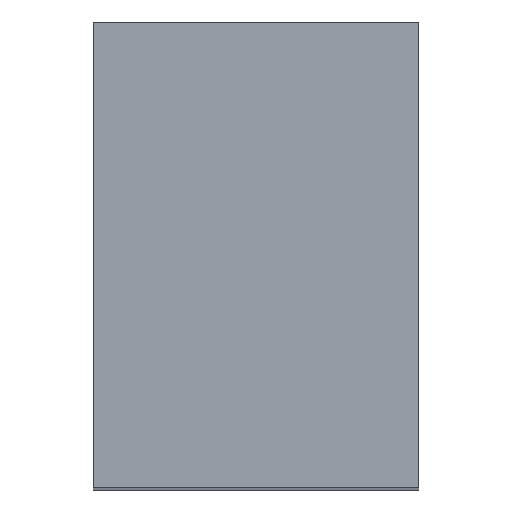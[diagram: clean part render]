
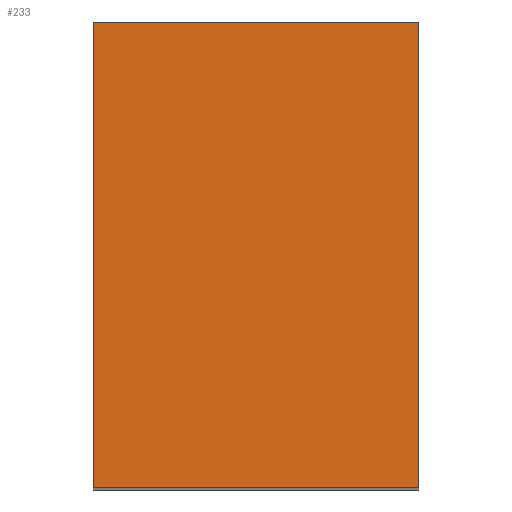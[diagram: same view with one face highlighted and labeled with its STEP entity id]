
A CAD part, top view. The second image highlights one B-rep face of the part: STEP entity #233.
In plain terms, the highlighted planar face has unit normal (0, 0, 1).
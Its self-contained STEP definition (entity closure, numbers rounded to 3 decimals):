
#38=FACE_OUTER_BOUND('',#54,.T.);
#54=EDGE_LOOP('',(#202,#203,#204,#205));
#67=LINE('',#359,#91);
#74=LINE('',#381,#98);
#77=LINE('',#387,#101);
#79=LINE('',#390,#103);
#91=VECTOR('',#292,10.);
#98=VECTOR('',#315,10.);
#101=VECTOR('',#322,10.);
#103=VECTOR('',#326,10.);
#114=VERTEX_POINT('',#356);
#115=VERTEX_POINT('',#358);
#122=VERTEX_POINT('',#379);
#123=VERTEX_POINT('',#386);
#137=EDGE_CURVE('',#114,#115,#67,.T.);
#148=EDGE_CURVE('',#122,#114,#74,.T.);
#151=EDGE_CURVE('',#123,#115,#77,.T.);
#153=EDGE_CURVE('',#122,#123,#79,.T.);
#202=ORIENTED_EDGE('',*,*,#153,.T.);
#203=ORIENTED_EDGE('',*,*,#151,.T.);
#204=ORIENTED_EDGE('',*,*,#137,.F.);
#205=ORIENTED_EDGE('',*,*,#148,.F.);
#221=PLANE('',#265);
#233=ADVANCED_FACE('',(#38),#221,.T.);
#265=AXIS2_PLACEMENT_3D('',#389,#324,#325);
#292=DIRECTION('',(0.,-1.,0.));
#315=DIRECTION('',(1.,0.,0.));
#322=DIRECTION('',(1.,0.,0.));
#324=DIRECTION('center_axis',(0.,0.,1.));
#325=DIRECTION('ref_axis',(0.,-1.,0.));
#326=DIRECTION('',(0.,-1.,0.));
#356=CARTESIAN_POINT('',(7.,10.,16.));
#358=CARTESIAN_POINT('',(7.,0.,16.));
#359=CARTESIAN_POINT('',(7.,10.,16.));
#379=CARTESIAN_POINT('',(0.,10.,16.));
#381=CARTESIAN_POINT('',(0.,10.,16.));
#386=CARTESIAN_POINT('',(0.,0.,16.));
#387=CARTESIAN_POINT('',(0.,0.,16.));
#389=CARTESIAN_POINT('Origin',(0.,10.,16.));
#390=CARTESIAN_POINT('',(0.,10.,16.));
